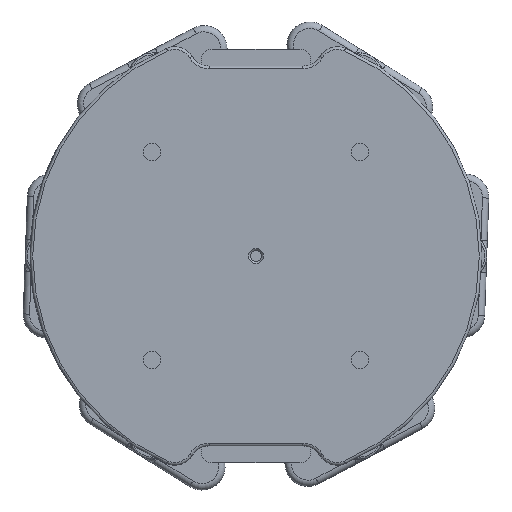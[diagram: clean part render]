
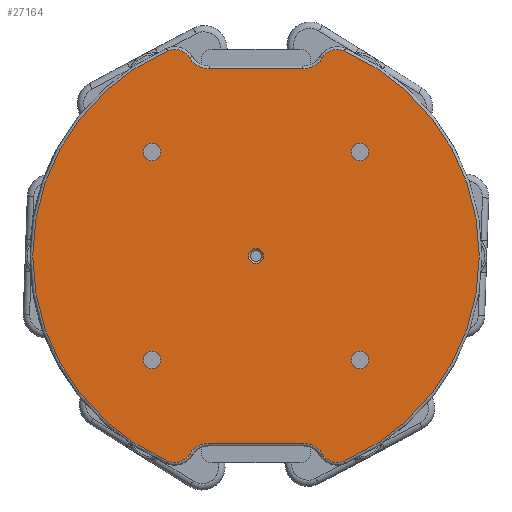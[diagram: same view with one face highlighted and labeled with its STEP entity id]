
A CAD part, front view. The second image highlights one B-rep face of the part: STEP entity #27164.
In plain terms, the highlighted planar face has unit normal (0, -1, 0).
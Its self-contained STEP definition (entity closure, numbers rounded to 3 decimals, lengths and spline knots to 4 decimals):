
#433=FACE_BOUND('',#9203,.T.);
#434=FACE_BOUND('',#9204,.T.);
#435=FACE_BOUND('',#9205,.T.);
#436=FACE_BOUND('',#9206,.T.);
#437=FACE_BOUND('',#9207,.T.);
#541=PLANE('',#28977);
#1576=LINE('',#37431,#4533);
#1578=LINE('',#37467,#4535);
#4533=VECTOR('',#30744,0.3937);
#4535=VECTOR('',#30790,0.3937);
#7642=FACE_OUTER_BOUND('',#9202,.T.);
#9202=EDGE_LOOP('',(#19281,#19282,#19283,#19284,#19285,#19286,#19287,#19288,
#19289,#19290,#19291,#19292));
#9203=EDGE_LOOP('',(#19293));
#9204=EDGE_LOOP('',(#19294));
#9205=EDGE_LOOP('',(#19295));
#9206=EDGE_LOOP('',(#19296));
#9207=EDGE_LOOP('',(#19297));
#11413=CIRCLE('',#28817,0.195);
#11418=CIRCLE('',#28823,2.47);
#11421=CIRCLE('',#28827,0.195);
#11424=CIRCLE('',#28831,0.255);
#11428=CIRCLE('',#28837,0.255);
#11431=CIRCLE('',#28841,0.195);
#11434=CIRCLE('',#28845,2.47);
#11437=CIRCLE('',#28849,0.195);
#11440=CIRCLE('',#28853,0.255);
#11443=CIRCLE('',#28858,0.255);
#11556=CIRCLE('',#28978,0.098);
#11557=CIRCLE('',#28979,0.098);
#11558=CIRCLE('',#28980,0.098);
#11559=CIRCLE('',#28981,0.098);
#11560=CIRCLE('',#28982,0.0825);
#12008=VERTEX_POINT('',#37401);
#12009=VERTEX_POINT('',#37403);
#12011=VERTEX_POINT('',#37409);
#12013=VERTEX_POINT('',#37415);
#12015=VERTEX_POINT('',#37421);
#12017=VERTEX_POINT('',#37427);
#12019=VERTEX_POINT('',#37433);
#12021=VERTEX_POINT('',#37439);
#12023=VERTEX_POINT('',#37445);
#12025=VERTEX_POINT('',#37451);
#12027=VERTEX_POINT('',#37457);
#12029=VERTEX_POINT('',#37463);
#12370=VERTEX_POINT('',#38804);
#12371=VERTEX_POINT('',#38806);
#12372=VERTEX_POINT('',#38808);
#12373=VERTEX_POINT('',#38810);
#12374=VERTEX_POINT('',#38812);
#14735=EDGE_CURVE('',#12008,#12009,#11413,.T.);
#14740=EDGE_CURVE('',#12009,#12011,#11418,.T.);
#14743=EDGE_CURVE('',#12011,#12013,#11421,.T.);
#14746=EDGE_CURVE('',#12013,#12015,#11424,.T.);
#14749=EDGE_CURVE('',#12015,#12017,#1576,.T.);
#14752=EDGE_CURVE('',#12017,#12019,#11428,.T.);
#14755=EDGE_CURVE('',#12019,#12021,#11431,.T.);
#14758=EDGE_CURVE('',#12021,#12023,#11434,.T.);
#14761=EDGE_CURVE('',#12023,#12025,#11437,.T.);
#14764=EDGE_CURVE('',#12025,#12027,#11440,.T.);
#14767=EDGE_CURVE('',#12027,#12029,#1578,.T.);
#14769=EDGE_CURVE('',#12029,#12008,#11443,.T.);
#15116=EDGE_CURVE('',#12370,#12370,#11556,.T.);
#15117=EDGE_CURVE('',#12371,#12371,#11557,.T.);
#15118=EDGE_CURVE('',#12372,#12372,#11558,.T.);
#15119=EDGE_CURVE('',#12373,#12373,#11559,.T.);
#15120=EDGE_CURVE('',#12374,#12374,#11560,.T.);
#19281=ORIENTED_EDGE('',*,*,#14735,.F.);
#19282=ORIENTED_EDGE('',*,*,#14769,.F.);
#19283=ORIENTED_EDGE('',*,*,#14767,.F.);
#19284=ORIENTED_EDGE('',*,*,#14764,.F.);
#19285=ORIENTED_EDGE('',*,*,#14761,.F.);
#19286=ORIENTED_EDGE('',*,*,#14758,.F.);
#19287=ORIENTED_EDGE('',*,*,#14755,.F.);
#19288=ORIENTED_EDGE('',*,*,#14752,.F.);
#19289=ORIENTED_EDGE('',*,*,#14749,.F.);
#19290=ORIENTED_EDGE('',*,*,#14746,.F.);
#19291=ORIENTED_EDGE('',*,*,#14743,.F.);
#19292=ORIENTED_EDGE('',*,*,#14740,.F.);
#19293=ORIENTED_EDGE('',*,*,#15116,.T.);
#19294=ORIENTED_EDGE('',*,*,#15117,.T.);
#19295=ORIENTED_EDGE('',*,*,#15118,.T.);
#19296=ORIENTED_EDGE('',*,*,#15119,.T.);
#19297=ORIENTED_EDGE('',*,*,#15120,.F.);
#27164=ADVANCED_FACE('',(#7642,#433,#434,#435,#436,#437),#541,.T.);
#28817=AXIS2_PLACEMENT_3D('',#37404,#30709,#30710);
#28823=AXIS2_PLACEMENT_3D('',#37413,#30721,#30722);
#28827=AXIS2_PLACEMENT_3D('',#37419,#30729,#30730);
#28831=AXIS2_PLACEMENT_3D('',#37425,#30737,#30738);
#28837=AXIS2_PLACEMENT_3D('',#37437,#30751,#30752);
#28841=AXIS2_PLACEMENT_3D('',#37443,#30759,#30760);
#28845=AXIS2_PLACEMENT_3D('',#37449,#30767,#30768);
#28849=AXIS2_PLACEMENT_3D('',#37455,#30775,#30776);
#28853=AXIS2_PLACEMENT_3D('',#37461,#30783,#30784);
#28858=AXIS2_PLACEMENT_3D('',#37470,#30795,#30796);
#28977=AXIS2_PLACEMENT_3D('',#38803,#31098,#31099);
#28978=AXIS2_PLACEMENT_3D('',#38805,#31100,#31101);
#28979=AXIS2_PLACEMENT_3D('',#38807,#31102,#31103);
#28980=AXIS2_PLACEMENT_3D('',#38809,#31104,#31105);
#28981=AXIS2_PLACEMENT_3D('',#38811,#31106,#31107);
#28982=AXIS2_PLACEMENT_3D('',#38813,#31108,#31109);
#30709=DIRECTION('center_axis',(0.,1.,0.));
#30710=DIRECTION('ref_axis',(-0.302,0.,0.953));
#30721=DIRECTION('center_axis',(0.,1.,0.));
#30722=DIRECTION('ref_axis',(1.,0.,0.));
#30729=DIRECTION('center_axis',(0.,1.,0.));
#30730=DIRECTION('ref_axis',(-0.302,0.,-0.953));
#30737=DIRECTION('center_axis',(0.,-1.,0.));
#30738=DIRECTION('ref_axis',(0.488,0.,0.873));
#30744=DIRECTION('',(-1.,0.,0.));
#30751=DIRECTION('center_axis',(0.,-1.,0.));
#30752=DIRECTION('ref_axis',(-0.488,0.,0.873));
#30759=DIRECTION('center_axis',(0.,1.,0.));
#30760=DIRECTION('ref_axis',(0.302,0.,-0.953));
#30767=DIRECTION('center_axis',(0.,1.,0.));
#30768=DIRECTION('ref_axis',(-1.,0.,0.));
#30775=DIRECTION('center_axis',(0.,1.,0.));
#30776=DIRECTION('ref_axis',(0.302,0.,0.953));
#30783=DIRECTION('center_axis',(0.,-1.,0.));
#30784=DIRECTION('ref_axis',(-0.488,0.,-0.873));
#30790=DIRECTION('',(1.,0.,0.));
#30795=DIRECTION('center_axis',(0.,-1.,0.));
#30796=DIRECTION('ref_axis',(0.488,0.,-0.873));
#31098=DIRECTION('center_axis',(0.,-1.,0.));
#31099=DIRECTION('ref_axis',(0.,0.,-1.));
#31100=DIRECTION('center_axis',(0.,1.,0.));
#31101=DIRECTION('ref_axis',(1.,0.,0.));
#31102=DIRECTION('center_axis',(0.,1.,0.));
#31103=DIRECTION('ref_axis',(1.,0.,0.));
#31104=DIRECTION('center_axis',(0.,1.,0.));
#31105=DIRECTION('ref_axis',(1.,0.,0.));
#31106=DIRECTION('center_axis',(0.,1.,0.));
#31107=DIRECTION('ref_axis',(1.,0.,0.));
#31108=DIRECTION('center_axis',(0.,-1.,0.));
#31109=DIRECTION('ref_axis',(1.,0.,0.));
#37401=CARTESIAN_POINT('',(0.7339,0.,2.1915));
#37403=CARTESIAN_POINT('',(0.9771,0.,2.2685));
#37404=CARTESIAN_POINT('Origin',(0.9,0.,2.0894));
#37409=CARTESIAN_POINT('',(0.9771,0.,-2.2685));
#37413=CARTESIAN_POINT('Origin',(0.,0.,0.));
#37415=CARTESIAN_POINT('',(0.7339,0.,-2.1915));
#37419=CARTESIAN_POINT('Origin',(0.9,0.,-2.0894));
#37421=CARTESIAN_POINT('',(0.5166,0.,-2.07));
#37425=CARTESIAN_POINT('Origin',(0.5166,0.,
-2.325));
#37427=CARTESIAN_POINT('',(-0.5166,0.,-2.07));
#37431=CARTESIAN_POINT('',(0.,0.,-2.07));
#37433=CARTESIAN_POINT('',(-0.7339,0.,-2.1915));
#37437=CARTESIAN_POINT('Origin',(-0.5166,0.,
-2.325));
#37439=CARTESIAN_POINT('',(-0.9771,0.,-2.2685));
#37443=CARTESIAN_POINT('Origin',(-0.9,0.,-2.0894));
#37445=CARTESIAN_POINT('',(-0.9771,0.,2.2685));
#37449=CARTESIAN_POINT('Origin',(0.,0.,0.));
#37451=CARTESIAN_POINT('',(-0.7339,0.,2.1915));
#37455=CARTESIAN_POINT('Origin',(-0.9,0.,2.0894));
#37457=CARTESIAN_POINT('',(-0.5166,0.,2.07));
#37461=CARTESIAN_POINT('Origin',(-0.5166,0.,
2.325));
#37463=CARTESIAN_POINT('',(0.5166,0.,2.07));
#37467=CARTESIAN_POINT('',(0.,0.,
2.07));
#37470=CARTESIAN_POINT('Origin',(0.5166,0.,
2.325));
#38803=CARTESIAN_POINT('Origin',(0.,0.,0.));
#38804=CARTESIAN_POINT('',(1.051,0.,-1.149));
#38805=CARTESIAN_POINT('Origin',(1.149,0.,
-1.149));
#38806=CARTESIAN_POINT('',(-1.247,0.,1.149));
#38807=CARTESIAN_POINT('Origin',(-1.149,0.,
1.149));
#38808=CARTESIAN_POINT('',(1.051,0.,1.149));
#38809=CARTESIAN_POINT('Origin',(1.149,0.,
1.149));
#38810=CARTESIAN_POINT('',(-1.247,0.,-1.149));
#38811=CARTESIAN_POINT('Origin',(-1.149,0.,
-1.149));
#38812=CARTESIAN_POINT('',(-0.0825,0.,0.));
#38813=CARTESIAN_POINT('Origin',(0.,0.,0.));
